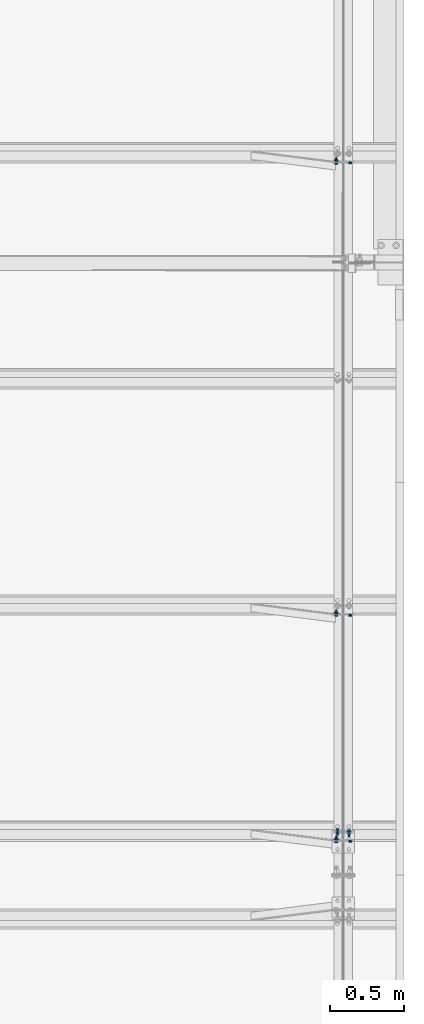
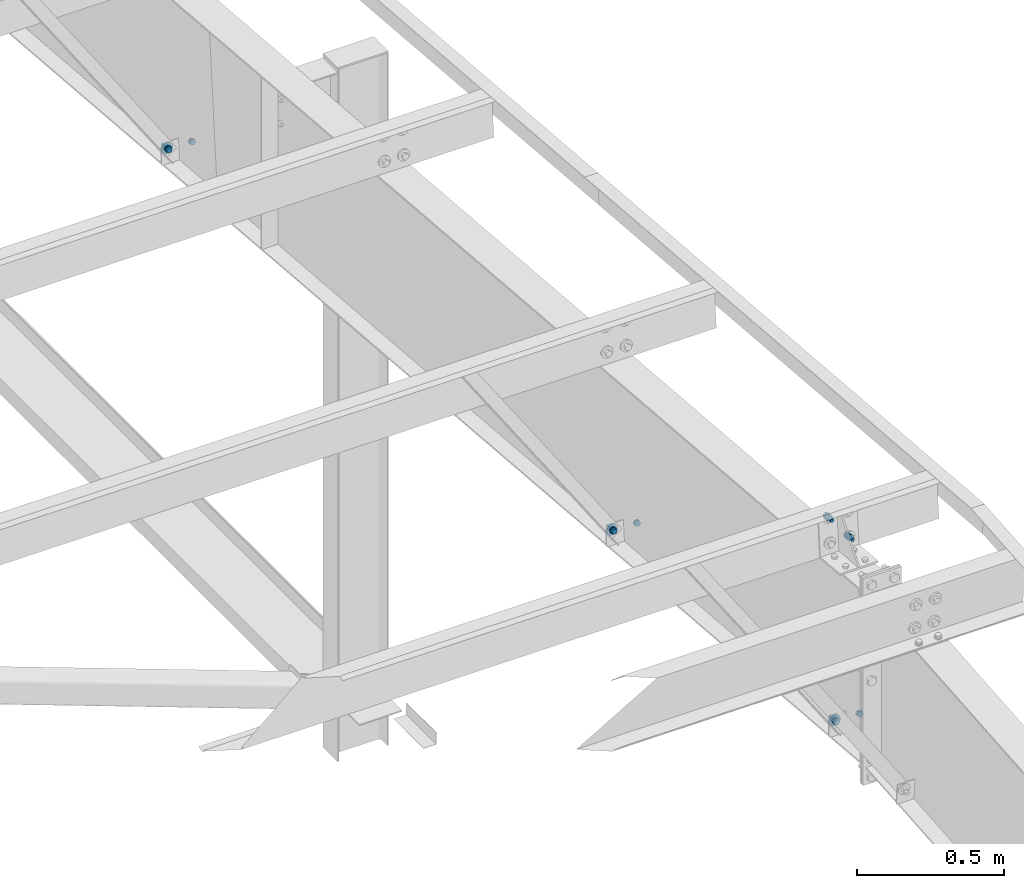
# One storey, part 175 of 185: 11 mechanical fasteners, 5 elements without a shape of their own.
"""IFC2X3 building model written with IfcOpenShell, lengths in millimetres."""

from ifc_helpers import new_model, si_unit, frame, origin_with_axes, origin_2d_with_axis, place, context, subcontext, project, spatial, polyline, circle, outline, extrude, source, transform, mapped, material, type_object, element, aggregate, save


model = new_model("IFC2X3")

# Units and contexts
model_context = context("Model", 3, precision=1e-05, world=origin_with_axes())
body_context = subcontext(model_context, "Body", "Model", "MODEL_VIEW")
ifc_project = project(units=[si_unit("LENGTHUNIT", "METRE", prefix="MILLI"), si_unit("AREAUNIT", "SQUARE_METRE"), si_unit("VOLUMEUNIT", "CUBIC_METRE"), si_unit("MASSUNIT", "GRAM", prefix="KILO"), si_unit("TIMEUNIT", "SECOND"), si_unit("PLANEANGLEUNIT", "RADIAN"), si_unit("SOLIDANGLEUNIT", "STERADIAN"), si_unit("THERMODYNAMICTEMPERATUREUNIT", "DEGREE_CELSIUS"), si_unit("LUMINOUSINTENSITYUNIT", "LUMEN")], contexts=[model_context])

# Site, building, storey
site_placement = place(None, origin_with_axes())
site = spatial("IfcSite", under=ifc_project, at=site_placement, Name="Undefined", CompositionType="ELEMENT")
building_placement = place(site_placement, origin_with_axes())
building = spatial("IfcBuilding", under=site, at=building_placement, Name="Undefined", CompositionType="ELEMENT")
storey_placement = place(building_placement, origin_with_axes())
storey = spatial("IfcBuildingStorey", under=building, at=storey_placement, Name="Undefined", CompositionType="ELEMENT", Elevation=0.0)

# Assembly, mechanical fastener
assembly_1_placement = place(storey_placement, origin_with_axes())
assembly_1 = element("IfcElementAssembly", 1, at=assembly_1_placement, inside=storey, Name="Steel Assembly", AssemblyPlace="NOTDEFINED", PredefinedType="RIGID_FRAME")
ifc_material_1 = material(Name="Undefined")
discrete_accessory_type = type_object("IfcDiscreteAccessoryType", Name="Bolt assembly")
shared_shape_1 = source(origin_with_axes(), body_context, "Body", "SweptSolid", [
    extrude(circle(Radius=7.14374971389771, at=origin_2d_with_axis()), frame((0.0, -1.59000001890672, 0.0), z_axis=(0.0, 1.0, 0.0), x_axis=(1.0, 0.0, 0.0)), (0.0, 0.0, 1.0), 1.7),
    extrude(outline(polyline([(10.9985221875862, 0.0), (5.4992610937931, 9.52499961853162), (-5.4992610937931, 9.52499961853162), (-10.9985221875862, 0.0), (-5.4992610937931, -9.52499961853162), (5.4992610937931, -9.52499961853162), (10.9985221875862, 0.0)])), frame((0.0, -15.0837496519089, 0.0), z_axis=(0.0, 1.0, 0.0), x_axis=(1.0, 0.0, 0.0)), (0.0, 0.0, 1.0), 9.5),
    extrude(circle(Radius=6.34999990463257, at=origin_2d_with_axis()), frame((0.0, -5.5587500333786, 0.0), z_axis=(0.0, 1.0, 0.0), x_axis=(1.0, 0.0, 0.0)), (0.0, 0.0, 1.0), 38.1),
    extrude(circle(Radius=13.4937496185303, at=origin_2d_with_axis()), frame((0.0, -5.5587500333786, 0.0), z_axis=(0.0, 1.0, 0.0), x_axis=(1.0, 0.0, 0.0)), (0.0, 0.0, 1.0), 4.0),
    extrude(circle(Radius=22.2250003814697, at=origin_2d_with_axis()), frame((0.0, 0.0, 0.0), z_axis=(0.0, 1.0, 0.0), x_axis=(1.0, 0.0, 0.0)), (0.0, 0.0, 1.0), 7.9),
    extrude(outline(polyline([(12.8316099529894, 0.0), (6.4158049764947, 11.1125001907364), (-6.4158049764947, 11.1125001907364), (-12.8316099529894, 0.0), (-6.4158049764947, -11.1125001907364), (6.4158049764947, -11.1125001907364), (12.8316099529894, 0.0)])), frame((0.0, 7.93750000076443, 0.0), z_axis=(0.0, 1.0, 0.0), x_axis=(1.0, 0.0, 0.0)), (0.0, 0.0, 1.0), 12.3),
])
mechanical_fastener_1_placement = place(assembly_1_placement, frame((44504.8883669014, 16234.361480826, 6547.56487318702), z_axis=(-0.832860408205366, -0.0459642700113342, -0.551571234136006), x_axis=(-0.553483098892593, 0.0691652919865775, 0.82998350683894)))
mechanical_fastener_1 = element("IfcMechanicalFastener", 2, at=mechanical_fastener_1_placement, type_object=discrete_accessory_type, material=ifc_material_1, Name="Bolt assembly", NominalDiameter=12.6999998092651, NominalLength=38.0999984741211, context=body_context, shape_type="MappedRepresentation", body=[
    mapped(shared_shape_1, transform((0.0, 0.0, 0.0))),
])
aggregate(assembly_1, [mechanical_fastener_1])

assembly_2_placement = place(storey_placement, origin_with_axes())
assembly_2 = element("IfcElementAssembly", 3, at=assembly_2_placement, inside=storey, Name="Steel Assembly", AssemblyPlace="NOTDEFINED", PredefinedType="RIGID_FRAME")
mechanical_fastener_2_placement = place(assembly_2_placement, frame((44504.8883669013, 17753.0972163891, 6421.00356188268), z_axis=(-0.832860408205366, -0.0459642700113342, -0.551571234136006), x_axis=(-0.553483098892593, 0.0691652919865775, 0.82998350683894)))
mechanical_fastener_2 = element("IfcMechanicalFastener", 4, at=mechanical_fastener_2_placement, type_object=discrete_accessory_type, material=ifc_material_1, Name="Bolt assembly", NominalDiameter=12.6999998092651, NominalLength=38.0999984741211, context=body_context, shape_type="MappedRepresentation", body=[
    mapped(shared_shape_1, transform((0.0, 0.0, 0.0))),
])
aggregate(assembly_2, [mechanical_fastener_2])

assembly_3_placement = place(storey_placement, origin_with_axes())
assembly_3 = element("IfcElementAssembly", 5, at=assembly_3_placement, inside=storey, Name="Steel Assembly", AssemblyPlace="NOTDEFINED", PredefinedType="RIGID_FRAME")
mechanical_fastener_3_placement = place(assembly_3_placement, frame((44504.8883669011, 20790.5686875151, 6167.88093927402), z_axis=(-0.832860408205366, -0.0459642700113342, -0.551571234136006), x_axis=(-0.553483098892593, 0.0691652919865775, 0.82998350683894)))
mechanical_fastener_3 = element("IfcMechanicalFastener", 6, at=mechanical_fastener_3_placement, type_object=discrete_accessory_type, material=ifc_material_1, Name="Bolt assembly", NominalDiameter=12.6999998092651, NominalLength=38.0999984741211, context=body_context, shape_type="MappedRepresentation", body=[
    mapped(shared_shape_1, transform((0.0, 0.0, 0.0))),
])
aggregate(assembly_3, [mechanical_fastener_3])

# Assembly, mechanical fasteners
assembly_4_placement = place(storey_placement, origin_with_axes())
assembly_4 = element("IfcElementAssembly", 7, at=assembly_4_placement, inside=storey, Name="Steel Assembly", AssemblyPlace="NOTDEFINED", PredefinedType="RIGID_FRAME")
ifc_material_2 = material(Name="7990")
shared_shape_2 = source(origin_with_axes(), body_context, "Body", "SweptSolid", [
    extrude(circle(Radius=7.14374971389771, at=origin_2d_with_axis()), frame((0.0, -3.41600000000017, 0.0), z_axis=(0.0, 1.0, 0.0), x_axis=(1.0, 0.0, 0.0)), (0.0, 0.0, 1.0), 3.5),
    extrude(circle(Radius=11.4299998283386, at=origin_2d_with_axis()), frame((0.0, 0.0, 0.0), z_axis=(0.0, 1.0, 0.0), x_axis=(1.0, 0.0, 0.0)), (0.0, 0.0, 1.0), 4.2),
    extrude(outline(polyline([(12.171698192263, 0.0), (6.08584909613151, 10.5409998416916), (-6.08584909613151, 10.5409998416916), (-12.171698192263, 0.0), (-6.08584909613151, -10.5409998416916), (6.08584909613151, -10.5409998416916), (12.171698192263, 0.0)])), frame((0.0, 4.1909999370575, 0.0), z_axis=(0.0, 1.0, 0.0), x_axis=(1.0, 0.0, 0.0)), (0.0, 0.0, 1.0), 8.4),
])
mechanical_fastener_4_placement = place(assembly_4_placement, frame((44597.75815, 16234.2923155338, 6546.73488968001), z_axis=(-0.921635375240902, -0.0322263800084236, -0.386716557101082), x_axis=(0.388056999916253, -0.0765376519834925, -0.918451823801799)))
mechanical_fastener_4 = element("IfcMechanicalFastener", 8, at=mechanical_fastener_4_placement, type_object=discrete_accessory_type, material=ifc_material_2, Name="Bolt assembly", NominalDiameter=12.6999998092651, NominalLength=38.0999984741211, context=body_context, shape_type="MappedRepresentation", body=[
    mapped(shared_shape_2, transform((0.0, 0.0, 0.0))),
])
mechanical_fastener_5_placement = place(assembly_4_placement, frame((44597.75815, 17753.0280510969, 6420.17357837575), z_axis=(-0.921635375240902, -0.0322263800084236, -0.386716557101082), x_axis=(0.388056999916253, -0.0765376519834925, -0.918451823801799)))
mechanical_fastener_5 = element("IfcMechanicalFastener", 9, at=mechanical_fastener_5_placement, type_object=discrete_accessory_type, material=ifc_material_2, Name="Bolt assembly", NominalDiameter=12.6999998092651, NominalLength=38.0999984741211, context=body_context, shape_type="MappedRepresentation", body=[
    mapped(shared_shape_2, transform((0.0, 0.0, 0.0))),
])
mechanical_fastener_6_placement = place(assembly_4_placement, frame((44597.75815, 20790.4995222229, 6167.05095576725), z_axis=(-0.921635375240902, -0.0322263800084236, -0.386716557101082), x_axis=(0.388056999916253, -0.0765376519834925, -0.918451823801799)))
mechanical_fastener_6 = element("IfcMechanicalFastener", 10, at=mechanical_fastener_6_placement, type_object=discrete_accessory_type, material=ifc_material_2, Name="Bolt assembly", NominalDiameter=12.6999998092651, NominalLength=38.0999984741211, context=body_context, shape_type="MappedRepresentation", body=[
    mapped(shared_shape_2, transform((0.0, 0.0, 0.0))),
])
shared_shape_3 = source(origin_with_axes(), body_context, "Body", "SweptSolid", [
    extrude(circle(Radius=7.14374971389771, at=origin_2d_with_axis()), frame((0.0, 0.0, 0.0), z_axis=(0.0, 1.0, 0.0), x_axis=(1.0, 0.0, 0.0)), (0.0, 0.0, 1.0), 3.5),
    extrude(circle(Radius=11.4299998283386, at=origin_2d_with_axis()), frame((0.0, 3.41600000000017, 0.0), z_axis=(0.0, 1.0, 0.0), x_axis=(1.0, 0.0, 0.0)), (0.0, 0.0, 1.0), 4.2),
    extrude(outline(polyline([(12.171698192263, 0.0), (6.08584909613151, 10.5409998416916), (-6.08584909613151, 10.5409998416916), (-12.171698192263, 0.0), (-6.08584909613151, -10.5409998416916), (6.08584909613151, -10.5409998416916), (12.171698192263, 0.0)])), frame((0.0, 7.60699993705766, 0.0), z_axis=(0.0, 1.0, 0.0), x_axis=(1.0, 0.0, 0.0)), (0.0, 0.0, 1.0), 8.4),
])
mechanical_fastener_7_placement = place(assembly_4_placement, frame((44505.44185, 16234.2923155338, 6546.73488968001), z_axis=(0.921635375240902, -0.0322263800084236, -0.386716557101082), x_axis=(-0.388056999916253, -0.0765376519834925, -0.918451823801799)))
mechanical_fastener_7 = element("IfcMechanicalFastener", 11, at=mechanical_fastener_7_placement, type_object=discrete_accessory_type, material=ifc_material_2, Name="Bolt assembly", NominalDiameter=12.6999998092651, NominalLength=38.0999984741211, context=body_context, shape_type="MappedRepresentation", body=[
    mapped(shared_shape_3, transform((0.0, 0.0, 0.0))),
])
mechanical_fastener_8_placement = place(assembly_4_placement, frame((44505.44185, 17753.0280510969, 6420.17357837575), z_axis=(0.921635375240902, -0.0322263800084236, -0.386716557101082), x_axis=(-0.388056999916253, -0.0765376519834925, -0.918451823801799)))
mechanical_fastener_8 = element("IfcMechanicalFastener", 12, at=mechanical_fastener_8_placement, type_object=discrete_accessory_type, material=ifc_material_2, Name="Bolt assembly", NominalDiameter=12.6999998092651, NominalLength=38.0999984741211, context=body_context, shape_type="MappedRepresentation", body=[
    mapped(shared_shape_3, transform((0.0, 0.0, 0.0))),
])
mechanical_fastener_9_placement = place(assembly_4_placement, frame((44505.44185, 20790.4995222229, 6167.05095576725), z_axis=(0.921635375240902, -0.0322263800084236, -0.386716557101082), x_axis=(-0.388056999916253, -0.0765376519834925, -0.918451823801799)))
mechanical_fastener_9 = element("IfcMechanicalFastener", 13, at=mechanical_fastener_9_placement, type_object=discrete_accessory_type, material=ifc_material_2, Name="Bolt assembly", NominalDiameter=12.6999998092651, NominalLength=38.0999984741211, context=body_context, shape_type="MappedRepresentation", body=[
    mapped(shared_shape_3, transform((0.0, 0.0, 0.0))),
])
aggregate(assembly_4, [mechanical_fastener_7, mechanical_fastener_4, mechanical_fastener_8, mechanical_fastener_5, mechanical_fastener_9, mechanical_fastener_6])

assembly_5_placement = place(storey_placement, origin_with_axes())
assembly_5 = element("IfcElementAssembly", 14, at=assembly_5_placement, inside=storey, Name="Steel Assembly", AssemblyPlace="NOTDEFINED", PredefinedType="RIGID_FRAME")
shared_shape_4 = source(origin_with_axes(), body_context, "Body", "SweptSolid", [
    extrude(circle(Radius=7.14374971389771, at=origin_2d_with_axis()), frame((0.0, 0.0, 0.0), z_axis=(0.0, 1.0, 0.0), x_axis=(1.0, 0.0, 0.0)), (0.0, 0.0, 1.0), 6.5),
    extrude(outline(polyline([(10.9985221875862, 0.0), (5.4992610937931, 9.52499961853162), (-5.4992610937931, 9.52499961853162), (-10.9985221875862, 0.0), (-5.4992610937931, -9.52499961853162), (5.4992610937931, -9.52499961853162), (10.9985221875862, 0.0)])), frame((0.0, -13.4937496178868, 0.0), z_axis=(0.0, 1.0, 0.0), x_axis=(1.0, 0.0, 0.0)), (0.0, 0.0, 1.0), 9.5),
    extrude(circle(Radius=6.34999990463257, at=origin_2d_with_axis()), frame((0.0, -3.96874999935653, 0.0), z_axis=(0.0, 1.0, 0.0), x_axis=(1.0, 0.0, 0.0)), (0.0, 0.0, 1.0), 38.1),
    extrude(circle(Radius=13.4937496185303, at=origin_2d_with_axis()), frame((0.0, -3.96874999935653, 0.0), z_axis=(0.0, 1.0, 0.0), x_axis=(1.0, 0.0, 0.0)), (0.0, 0.0, 1.0), 4.0),
    extrude(outline(polyline([(12.8316099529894, 0.0), (6.4158049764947, 11.1125001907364), (-6.4158049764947, 11.1125001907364), (-12.8316099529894, 0.0), (-6.4158049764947, -11.1125001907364), (6.4158049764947, -11.1125001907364), (12.8316099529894, 0.0)])), frame((0.0, 6.35000000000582, 0.0), z_axis=(0.0, 1.0, 0.0), x_axis=(1.0, 0.0, 0.0)), (0.0, 0.0, 1.0), 12.3),
])
mechanical_fastener_10_placement = place(assembly_5_placement, frame((44589.7, 16293.0905915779, 7252.31420222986), z_axis=(-1.0, 0.0, 0.0), x_axis=(0.0, -0.0830454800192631, -0.996545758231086)))
mechanical_fastener_10 = element("IfcMechanicalFastener", 15, at=mechanical_fastener_10_placement, type_object=discrete_accessory_type, material=ifc_material_1, Name="Bolt assembly", NominalDiameter=12.6999998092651, NominalLength=38.0999984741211, context=body_context, shape_type="MappedRepresentation", body=[
    mapped(shared_shape_4, transform((0.0, 0.0, 0.0))),
])
mechanical_fastener_11_placement = place(assembly_5_placement, frame((44513.5, 16301.5280123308, 7353.56325126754), z_axis=(-1.0, 0.0, 0.0), x_axis=(0.0, -0.0830454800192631, -0.996545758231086)))
mechanical_fastener_11 = element("IfcMechanicalFastener", 16, at=mechanical_fastener_11_placement, type_object=discrete_accessory_type, material=ifc_material_1, Name="Bolt assembly", NominalDiameter=12.6999998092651, NominalLength=38.0999984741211, context=body_context, shape_type="MappedRepresentation", body=[
    mapped(shared_shape_4, transform((0.0, 0.0, 0.0))),
])
aggregate(assembly_5, [mechanical_fastener_10, mechanical_fastener_11])

save(model, "model.ifc")
